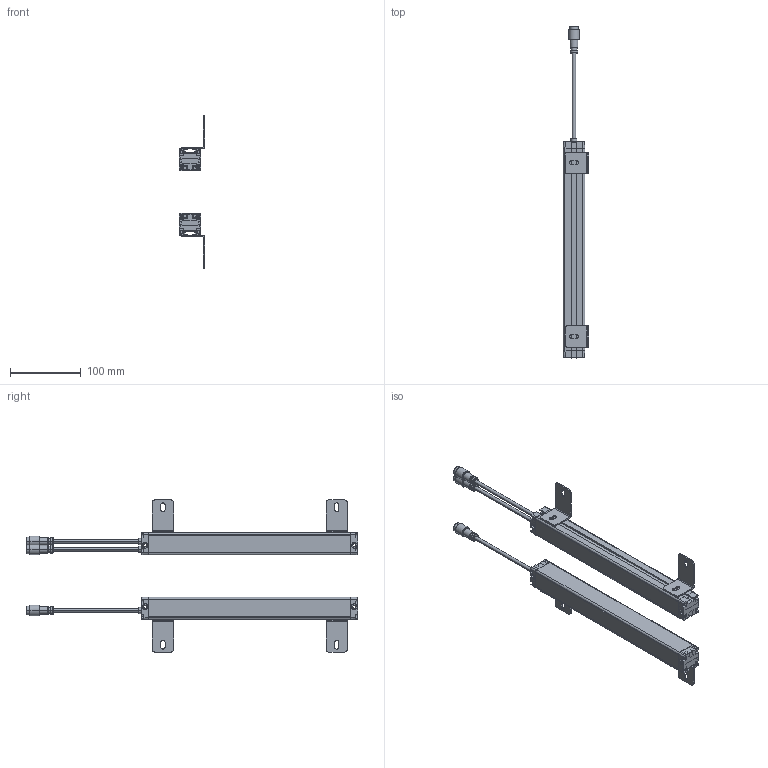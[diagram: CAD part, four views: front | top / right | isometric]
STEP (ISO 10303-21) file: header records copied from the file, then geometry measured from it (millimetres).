
FILE_DESCRIPTION(/* description */ (''),/* implementation_level */ '2;1');
FILE_NAME(/* name */ 'THZ10-26_stp.prt.stp',/* time_stamp */ '2024-03-28T16:10:36+08:00',/* author */ (''),/* organization */ (''),/* preprocessor_version */ 'ST-DEVELOPER v16',/* originating_system */ 'SIEMENS PLM Software NX 11.0',/* authorisation */ '');
FILE_SCHEMA (('AUTOMOTIVE_DESIGN { 1 0 10303 214 3 1 1 1 }'));
Length unit declared in the file: millimetre
Products named in the file (12): MANIFOLD_SOLID_BREP_108_5; 100_516375; 1_WIRE_535795; MANIFOLD_SOLID_BREP_109_5; 100_5; 1_WIRE_5; MANIFOLD_SOLID_BREP_107_5; MANIFOLD_SOLID_BREP_106_5; THW-THS L型侧装片; THZ20-12S; THZ20-12F; THZ10-26_stp
Assembly tree (15 placements, depth 3):
  THZ10-26_stp
    THW-THS L型侧装片  x4
    THZ20-12F
      MANIFOLD_SOLID_BREP_106_5
      MANIFOLD_SOLID_BREP_107_5
      1_WIRE_5
      100_5
    THZ20-12S
      MANIFOLD_SOLID_BREP_109_5
      1_WIRE_535795  x2
      100_516375
      MANIFOLD_SOLID_BREP_108_5
Bounding box: 36.1 x 467.98 x 214.6 mm (x, y, z)
Volume: 295899.8 mm3; surface area: 189151.4 mm2
Topology: 21 solids, 21 shells, 1296 faces, 3637 edges, 2418 vertices
Faces by surface type: plane 850, cylinder 369, torus 36, bspline 33, cone 8
Entity records: 40459 total; most frequent: CARTESIAN_POINT 9020, ORIENTED_EDGE 6710, DIRECTION 6250, EDGE_CURVE 3355, LINE 2396, VECTOR 2396, VERTEX_POINT 2226, AXIS2_PLACEMENT_3D 1927
